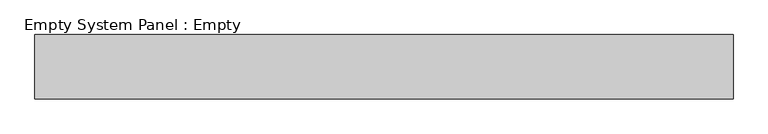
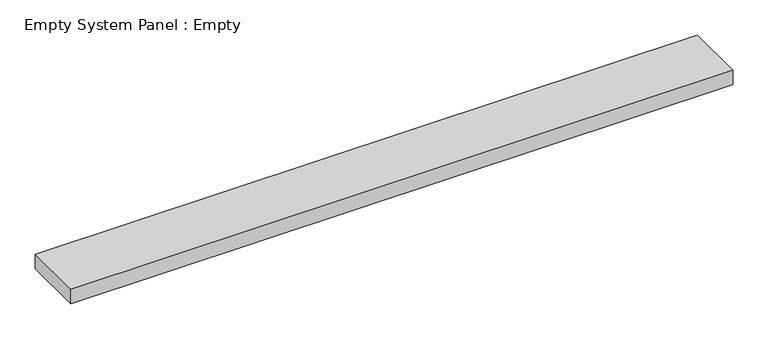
"""IFC4 building model written with IfcOpenShell, lengths in millimetres: plate geometry, Empty System Panel : Empty."""

from ifc_helpers import new_model, si_unit, origin, origin_with_axes, place, context, project, spatial, polyline, outline, extrude, source, transform, mapped, element, save


def empty_system_panel_empty_78dc3901(model_context):
    return source(origin(), model_context, "Body", "SweptSolid", [
        extrude(outline(polyline([(541.0714286, -50.0), (-541.0714286, -50.0), (-541.0714286, 50.0), (541.0714286, 50.0), (541.0714286, -50.0)])), origin_with_axes(), (0.0, 0.0, 1.0), 25.0),
    ])


if __name__ == "__main__":
    model = new_model("IFC4")
    model_context = context("Model", 3, world=origin())
    ifc_project = project(units=[si_unit("LENGTHUNIT", "METRE", prefix="MILLI")], contexts=[model_context])
    site = spatial("IfcSite", under=ifc_project)
    building = spatial("IfcBuilding", under=site)
    placement = place(None, origin())
    empty_system_panel_empty_shape = empty_system_panel_empty_78dc3901(model_context)
    element("IfcPlate", 1, ObjectType="Empty System Panel : Empty", at=placement, inside=building, context=model_context, shape_type="MappedRepresentation", body=[
        mapped(empty_system_panel_empty_shape, transform((0.0, 0.0, 0.0), x_axis=(1.0, 0.0, 0.0), y_axis=(0.0, 1.0, 0.0), z_axis=(0.0, 0.0, 1.0))),
    ])
    save(model, "model.ifc")
